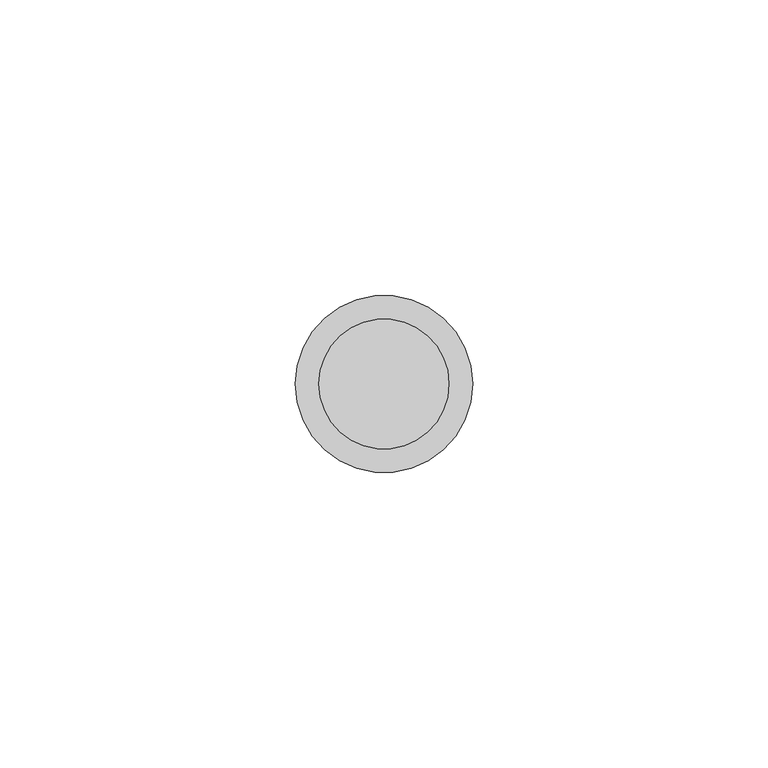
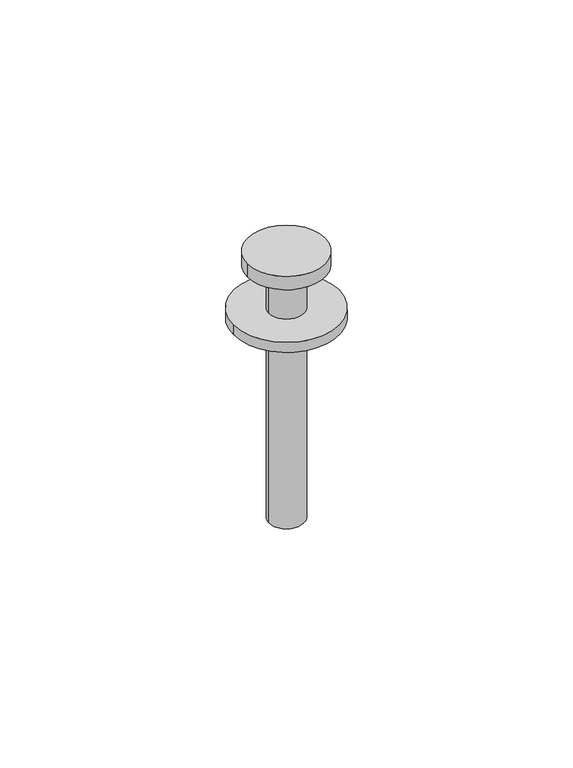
"""IFC4 building model written with IfcOpenShell, lengths in millimetres: proxy geometry, ITA-Connettore 20 VOLTECO : ITA-Connettore 20 VOLTECO."""

from ifc_helpers import new_model, si_unit, point, frame, origin, origin_with_axes, origin_2d, place, context, project, spatial, circle_curve, trimmed, segment, composite_curve, outline, extrude, source, transform, mapped, element, save


def generic_models_5daa82fc(model_context):
    return source(origin(), model_context, "Body", "SweptSolid", [
        extrude(outline(composite_curve([segment(trimmed(circle_curve(origin_2d(), 11.0), [point((-11.0, 0.0))], [point((11.0, 0.0))], False, "CARTESIAN"), True, "CONTINUOUS"), segment(trimmed(circle_curve(origin_2d(), 11.0), [point((11.0, 0.0))], [point((-11.0, 0.0))], False, "CARTESIAN"), True, "CONTINUOUS")], self_intersect=False)), frame((0.0, 0.0, 76.0), z_axis=(0.0, 0.0, 1.0), x_axis=(1.0, 0.0, 0.0)), (0.0, 0.0, 1.0), 4.0),
        extrude(outline(composite_curve([segment(trimmed(circle_curve(origin_2d(), 5.0), [point((-5.0, 0.0))], [point((5.0, 0.0))], False, "CARTESIAN"), True, "CONTINUOUS"), segment(trimmed(circle_curve(origin_2d(), 5.0), [point((5.0, 0.0))], [point((-5.0, 0.0))], False, "CARTESIAN"), True, "CONTINUOUS")], self_intersect=False)), frame((0.0, 0.0, 63.0), z_axis=(0.0, 0.0, 1.0), x_axis=(1.0, 0.0, 0.0)), (0.0, 0.0, 1.0), 13.0),
        extrude(outline(composite_curve([segment(trimmed(circle_curve(origin_2d(), 15.0), [point((-15.0, 0.0))], [point((15.0, 0.0))], False, "CARTESIAN"), True, "CONTINUOUS"), segment(trimmed(circle_curve(origin_2d(), 15.0), [point((15.0, 0.0))], [point((-15.0, 0.0))], False, "CARTESIAN"), True, "CONTINUOUS")], self_intersect=False)), frame((0.0, 0.0, 60.0), z_axis=(0.0, 0.0, 1.0), x_axis=(1.0, 0.0, 0.0)), (0.0, 0.0, 1.0), 3.0),
        extrude(outline(composite_curve([segment(trimmed(circle_curve(origin_2d(), 5.0), [point((-5.0, 0.0))], [point((5.0, 0.0))], False, "CARTESIAN"), True, "CONTINUOUS"), segment(trimmed(circle_curve(origin_2d(), 5.0), [point((5.0, 0.0))], [point((-5.0, 0.0))], False, "CARTESIAN"), True, "CONTINUOUS")], self_intersect=False)), origin_with_axes(), (0.0, 0.0, 1.0), 60.0),
    ])


if __name__ == "__main__":
    model = new_model("IFC4")
    model_context = context("Model", 3, world=origin())
    ifc_project = project(units=[si_unit("LENGTHUNIT", "METRE", prefix="MILLI")], contexts=[model_context])
    site = spatial("IfcSite", under=ifc_project)
    building = spatial("IfcBuilding", under=site)
    placement = place(None, origin())
    generic_models_shape = generic_models_5daa82fc(model_context)
    element("IfcBuildingElementProxy", 1, Name="ITA-Connettore 20 VOLTECO : ITA-Connettore 20 VOLTECO", ObjectType="ITA-Connettore 20 VOLTECO : ITA-Connettore 20 VOLTECO", at=placement, inside=building, context=model_context, shape_type="MappedRepresentation", body=[
        mapped(generic_models_shape, transform((0.0, 0.0, 0.0), x_axis=(1.0, 0.0, 0.0), y_axis=(0.0, 1.0, 0.0), z_axis=(0.0, 0.0, 1.0))),
    ])
    save(model, "model.ifc")
